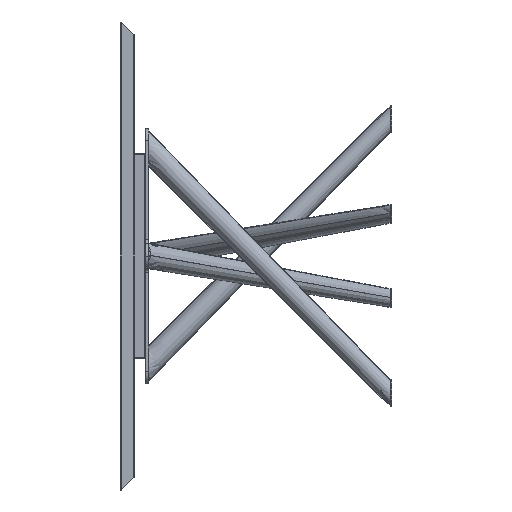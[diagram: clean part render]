
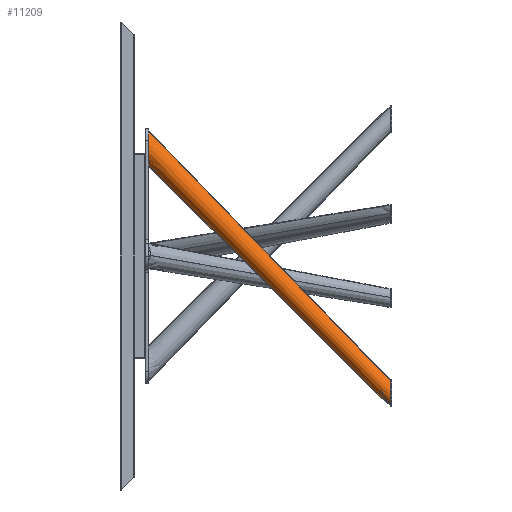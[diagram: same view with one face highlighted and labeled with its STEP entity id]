
A CAD part, left-side view. The second image highlights one B-rep face of the part: STEP entity #11209.
In plain terms, the highlighted conical face has half-angle 0.573 degrees and reference radius 25 mm.
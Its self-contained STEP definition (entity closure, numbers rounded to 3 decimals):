
#23 = EDGE_CURVE ( 'NONE', #1159, #9088, #11159, .T. ) ;
#30 = VERTEX_POINT ( 'NONE', #9238 ) ;
#386 = CARTESIAN_POINT ( 'NONE',  ( -116.725, 0., -410.142 ) ) ;
#1039 = DIRECTION ( 'NONE',  ( 0.122, 0.704, 0.699 ) ) ;
#1159 = VERTEX_POINT ( 'NONE', #12892 ) ;
#1257 = EDGE_CURVE ( 'NONE', #9088, #30, #4851, .T. ) ;
#1646 = CARTESIAN_POINT ( 'NONE',  ( -14.298, 660., 336.819 ) ) ;
#1871 = CARTESIAN_POINT ( 'NONE',  ( -116.725, 0., -410.142 ) ) ;
#2414 = VERTEX_POINT ( 'NONE', #6508 ) ;
#2474 = AXIS2_PLACEMENT_3D ( 'NONE', #11026, #14045, #4412 ) ;
#2518 = ORIENTED_EDGE ( 'NONE', *, *, #23, .T. ) ;
#2535 = EDGE_LOOP ( 'NONE', ( #4704, #13186, #2518, #3948, #12547 ) ) ;
#2658 = AXIS2_PLACEMENT_3D ( 'NONE', #13321, #8010, #13467 ) ;
#3162 = CARTESIAN_POINT ( 'NONE',  ( -167.673, 0., -413.666 ) ) ;
#3200 = CONICAL_SURFACE ( 'NONE', #2474, 25., 0.01 ) ;
#3218 = CARTESIAN_POINT ( 'NONE',  ( -119.212, -35.093, -374.617 ) ) ;
#3440 = EDGE_CURVE ( 'NONE', #9814, #30, #12976, .T. ) ;
#3948 = ORIENTED_EDGE ( 'NONE', *, *, #1257, .T. ) ;
#4412 = DIRECTION ( 'NONE',  ( 0.051, 0.706, -0.706 ) ) ;
#4704 = ORIENTED_EDGE ( 'NONE', *, *, #8846, .F. ) ;
#4851 =( BOUNDED_CURVE ( )  B_SPLINE_CURVE ( 3, ( #10812, #5202, #7435, #11812 ),
 .UNSPECIFIED., .F., .F. ) 
 B_SPLINE_CURVE_WITH_KNOTS ( ( 4, 4 ),
 ( 0.662, 3.31 ),
 .UNSPECIFIED. ) 
 CURVE ( )  GEOMETRIC_REPRESENTATION_ITEM ( )  RATIONAL_B_SPLINE_CURVE ( ( 1., 0.496, 0.496, 1. ) ) 
 REPRESENTATION_ITEM ( '' )  );
#5202 = CARTESIAN_POINT ( 'NONE',  ( -56.207, 660., 303.559 ) ) ;
#6508 = CARTESIAN_POINT ( 'NONE',  ( -113.065, 0., -338.343 ) ) ;
#7435 = CARTESIAN_POINT ( 'NONE',  ( -48.275, 660., 241.977 ) ) ;
#8010 = DIRECTION ( 'NONE',  ( -0.121, -0.697, -0.706 ) ) ;
#8846 = EDGE_CURVE ( 'NONE', #2414, #9814, #10108, .T. ) ;
#9088 = VERTEX_POINT ( 'NONE', #1646 ) ;
#9238 = CARTESIAN_POINT ( 'NONE',  ( -2.49, 660., 245.144 ) ) ;
#9344 = EDGE_CURVE ( 'NONE', #2414, #1159, #11129, .T. ) ;
#9616 = CARTESIAN_POINT ( 'NONE',  ( -116.685, 0.227, -409.917 ) ) ;
#9656 = CARTESIAN_POINT ( 'NONE',  ( -164.026, 0., -342.116 ) ) ;
#9814 = VERTEX_POINT ( 'NONE', #386 ) ;
#9897 = FACE_OUTER_BOUND ( 'NONE', #2535, .T. ) ;
#10060 = DIRECTION ( 'NONE',  ( 0.121, 0.69, 0.713 ) ) ;
#10108 =( BOUNDED_CURVE ( )  B_SPLINE_CURVE ( 3, ( #11717, #9656, #3162, #1871 ),
 .UNSPECIFIED., .F., .T. ) 
 B_SPLINE_CURVE_WITH_KNOTS ( ( 4, 4 ),
 ( 0.172, 3.31 ),
 .UNSPECIFIED. ) 
 CURVE ( )  GEOMETRIC_REPRESENTATION_ITEM ( )  RATIONAL_B_SPLINE_CURVE ( ( 1., 0.334, 0.334, 1. ) ) 
 REPRESENTATION_ITEM ( '' )  );
#10602 = VECTOR ( 'NONE', #1039, 1000. ) ;
#10812 = CARTESIAN_POINT ( 'NONE',  ( -14.298, 660., 336.819 ) ) ;
#11026 = CARTESIAN_POINT ( 'NONE',  ( -117.949, -17.433, -392.267 ) ) ;
#11129 = LINE ( 'NONE', #3218, #13135 ) ;
#11159 = CIRCLE ( 'NONE', #2658, 35. ) ;
#11209 = ADVANCED_FACE ( 'NONE', ( #9897 ), #3200, .T. ) ;
#11717 = CARTESIAN_POINT ( 'NONE',  ( -113.065, 0., -338.343 ) ) ;
#11812 = CARTESIAN_POINT ( 'NONE',  ( -2.49, 660., 245.144 ) ) ;
#12547 = ORIENTED_EDGE ( 'NONE', *, *, #3440, .F. ) ;
#12892 = CARTESIAN_POINT ( 'NONE',  ( 1.693, 655.157, 338.851 ) ) ;
#12976 = LINE ( 'NONE', #9616, #10602 ) ;
#13135 = VECTOR ( 'NONE', #10060, 1000. ) ;
#13186 = ORIENTED_EDGE ( 'NONE', *, *, #9344, .T. ) ;
#13321 = CARTESIAN_POINT ( 'NONE',  ( 3.462, 679.882, 314.141 ) ) ;
#13467 = DIRECTION ( 'NONE',  ( -0.051, -0.706, 0.706 ) ) ;
#14045 = DIRECTION ( 'NONE',  ( 0.121, 0.697, 0.706 ) ) ;
